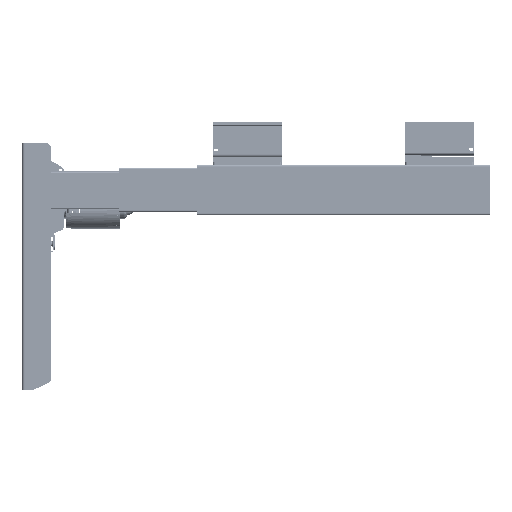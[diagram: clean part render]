
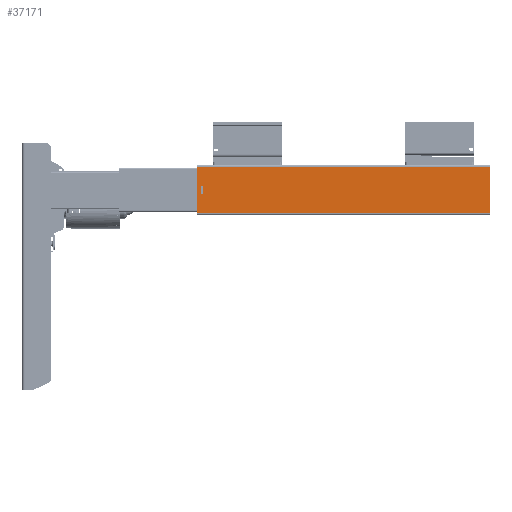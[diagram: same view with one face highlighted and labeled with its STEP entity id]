
A CAD part, left-side view. The second image highlights one B-rep face of the part: STEP entity #37171.
In plain terms, the highlighted planar face has unit normal (-1, 0, 0).
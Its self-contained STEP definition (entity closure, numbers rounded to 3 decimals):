
#3321 = VECTOR ( 'NONE', #230032, 1000. ) ;
#3800 = CARTESIAN_POINT ( 'NONE',  ( -30., 37., 465. ) ) ;
#6838 = CARTESIAN_POINT ( 'NONE',  ( -30., 6., 10. ) ) ;
#10017 = CARTESIAN_POINT ( 'NONE',  ( -30., -37., 465. ) ) ;
#24076 = EDGE_CURVE ( 'NONE', #111173, #278839, #135214, .T. ) ;
#26696 = ORIENTED_EDGE ( 'NONE', *, *, #106978, .F. ) ;
#35617 = LINE ( 'NONE', #10017, #137560 ) ;
#36382 = EDGE_CURVE ( 'NONE', #160412, #244116, #148193, .T. ) ;
#37171 = ADVANCED_FACE ( 'NONE', ( #243102, #292882 ), #169163, .F. ) ;
#45393 = EDGE_CURVE ( 'NONE', #315121, #268746, #70495, .T. ) ;
#51183 = ORIENTED_EDGE ( 'NONE', *, *, #36382, .T. ) ;
#59596 = ORIENTED_EDGE ( 'NONE', *, *, #151521, .F. ) ;
#70495 = LINE ( 'NONE', #215088, #146330 ) ;
#77899 = VECTOR ( 'NONE', #175580, 1000. ) ;
#80692 = CARTESIAN_POINT ( 'NONE',  ( -30., 6., 10. ) ) ;
#88345 = EDGE_CURVE ( 'NONE', #268746, #111173, #119541, .T. ) ;
#95421 = DIRECTION ( 'NONE',  ( 0., 1., 0. ) ) ;
#96891 = DIRECTION ( 'NONE',  ( 0., 1., 0. ) ) ;
#104300 = AXIS2_PLACEMENT_3D ( 'NONE', #197999, #317030, #96891 ) ;
#104606 = CARTESIAN_POINT ( 'NONE',  ( -30., -6., 6. ) ) ;
#106978 = EDGE_CURVE ( 'NONE', #269238, #116113, #35617, .T. ) ;
#107857 = EDGE_CURVE ( 'NONE', #278839, #315121, #153010, .T. ) ;
#111173 = VERTEX_POINT ( 'NONE', #175772 ) ;
#116113 = VERTEX_POINT ( 'NONE', #204458 ) ;
#119541 = LINE ( 'NONE', #217470, #297462 ) ;
#127328 = DIRECTION ( 'NONE',  ( 0., -1., 0. ) ) ;
#135214 = LINE ( 'NONE', #6838, #3321 ) ;
#137560 = VECTOR ( 'NONE', #260510, 1000. ) ;
#141416 = ORIENTED_EDGE ( 'NONE', *, *, #45393, .T. ) ;
#141866 = CARTESIAN_POINT ( 'NONE',  ( -30., 37., 465. ) ) ;
#146330 = VECTOR ( 'NONE', #313147, 1000. ) ;
#148193 = LINE ( 'NONE', #141866, #247444 ) ;
#151521 = EDGE_CURVE ( 'NONE', #160412, #269238, #223765, .T. ) ;
#153010 = LINE ( 'NONE', #80692, #276304 ) ;
#159277 = CARTESIAN_POINT ( 'NONE',  ( -30., 6., 10. ) ) ;
#160412 = VERTEX_POINT ( 'NONE', #190852 ) ;
#168121 = ORIENTED_EDGE ( 'NONE', *, *, #107857, .T. ) ;
#169163 = PLANE ( 'NONE',  #104300 ) ;
#173757 = ORIENTED_EDGE ( 'NONE', *, *, #88345, .T. ) ;
#175580 = DIRECTION ( 'NONE',  ( 0., -1., 0. ) ) ;
#175772 = CARTESIAN_POINT ( 'NONE',  ( -30., 6., 6. ) ) ;
#176679 = CARTESIAN_POINT ( 'NONE',  ( -30., 37., 0. ) ) ;
#186685 = VECTOR ( 'NONE', #204702, 1000. ) ;
#190852 = CARTESIAN_POINT ( 'NONE',  ( -30., 37., 465. ) ) ;
#197999 = CARTESIAN_POINT ( 'NONE',  ( -30., 37., 465. ) ) ;
#204458 = CARTESIAN_POINT ( 'NONE',  ( -30., -37., 0. ) ) ;
#204702 = DIRECTION ( 'NONE',  ( 0., -1., 0. ) ) ;
#205880 = DIRECTION ( 'NONE',  ( 0., 0., -1. ) ) ;
#215088 = CARTESIAN_POINT ( 'NONE',  ( -30., -6., 10. ) ) ;
#217470 = CARTESIAN_POINT ( 'NONE',  ( -30., 6., 6. ) ) ;
#220828 = EDGE_CURVE ( 'NONE', #244116, #116113, #256146, .T. ) ;
#223765 = LINE ( 'NONE', #3800, #77899 ) ;
#227272 = EDGE_LOOP ( 'NONE', ( #247395, #26696, #59596, #51183 ) ) ;
#230032 = DIRECTION ( 'NONE',  ( 0., 0., 1. ) ) ;
#243102 = FACE_BOUND ( 'NONE', #293633, .T. ) ;
#244116 = VERTEX_POINT ( 'NONE', #176679 ) ;
#247395 = ORIENTED_EDGE ( 'NONE', *, *, #220828, .T. ) ;
#247444 = VECTOR ( 'NONE', #205880, 1000. ) ;
#256146 = LINE ( 'NONE', #309096, #186685 ) ;
#260510 = DIRECTION ( 'NONE',  ( 0., 0., -1. ) ) ;
#268746 = VERTEX_POINT ( 'NONE', #104606 ) ;
#269238 = VERTEX_POINT ( 'NONE', #306223 ) ;
#276304 = VECTOR ( 'NONE', #127328, 1000. ) ;
#278839 = VERTEX_POINT ( 'NONE', #159277 ) ;
#283266 = ORIENTED_EDGE ( 'NONE', *, *, #24076, .T. ) ;
#292882 = FACE_OUTER_BOUND ( 'NONE', #227272, .T. ) ;
#293633 = EDGE_LOOP ( 'NONE', ( #283266, #168121, #141416, #173757 ) ) ;
#297462 = VECTOR ( 'NONE', #95421, 1000. ) ;
#306223 = CARTESIAN_POINT ( 'NONE',  ( -30., -37., 465. ) ) ;
#306275 = CARTESIAN_POINT ( 'NONE',  ( -30., -6., 10. ) ) ;
#309096 = CARTESIAN_POINT ( 'NONE',  ( -30., 37., 0. ) ) ;
#313147 = DIRECTION ( 'NONE',  ( 0., 0., -1. ) ) ;
#315121 = VERTEX_POINT ( 'NONE', #306275 ) ;
#317030 = DIRECTION ( 'NONE',  ( 1., 0., 0. ) ) ;
